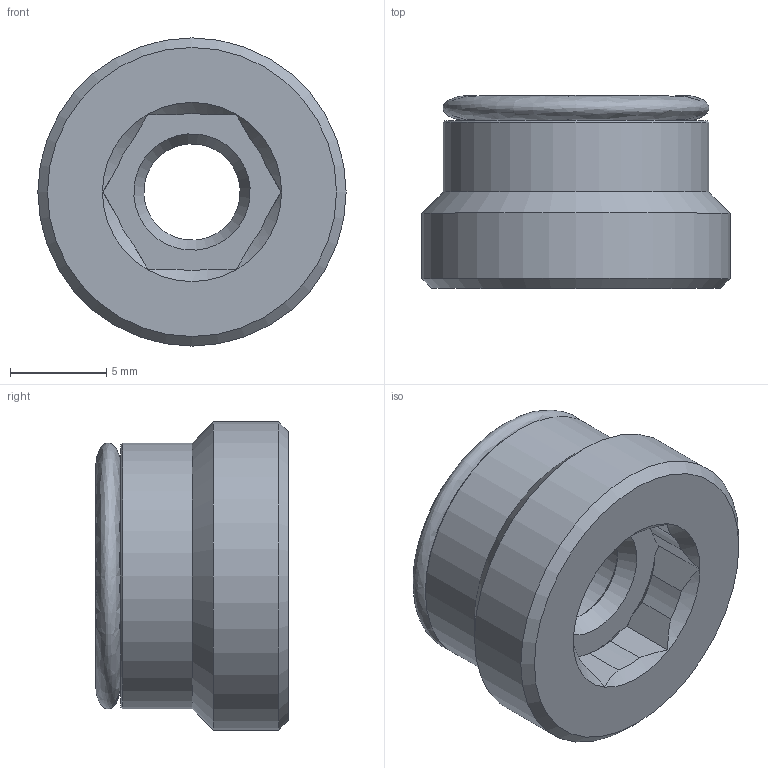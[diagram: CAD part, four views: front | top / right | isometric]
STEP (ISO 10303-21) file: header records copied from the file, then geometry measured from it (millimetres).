
FILE_DESCRIPTION (( 'STEP AP214' ), '1' );
FILE_NAME ('T-VASP.STEP', '2024-02-26T14:00:57', ( '' ), ( '' ), 'SwSTEP 2.0', 'SolidWorks 2023', '' );
FILE_SCHEMA (( 'AUTOMOTIVE_DESIGN' ));
Length unit declared in the file: millimetre
Products named in the file (4): VASP TENUTA-OR108; U-S105 DOUBLE; T-VASP; VASP BUSSOLA TENUTA
Assembly tree (3 placements, depth 2):
  T-VASP
    VASP BUSSOLA TENUTA
    U-S105 DOUBLE
    VASP TENUTA-OR108
Bounding box: 16 x 10 x 16 mm (x, y, z)
Volume: 1328.6 mm3; surface area: 1548.1 mm2
Topology: 3 solids, 3 shells, 59 faces, 143 edges, 91 vertices
Faces by surface type: plane 25, cone 17, cylinder 13, torus 3, bspline 1
Full cylindrical faces by diameter (mm): 5.1 x1, 5.4 x1, 9 x1, 10 x2, 13.8 x1, 16 x1
Entity records: 1803 total; most frequent: CARTESIAN_POINT 441, DIRECTION 260, ORIENTED_EDGE 234, EDGE_CURVE 117, AXIS2_PLACEMENT_3D 115, VERTEX_POINT 87, EDGE_LOOP 86, FACE_OUTER_BOUND 68
